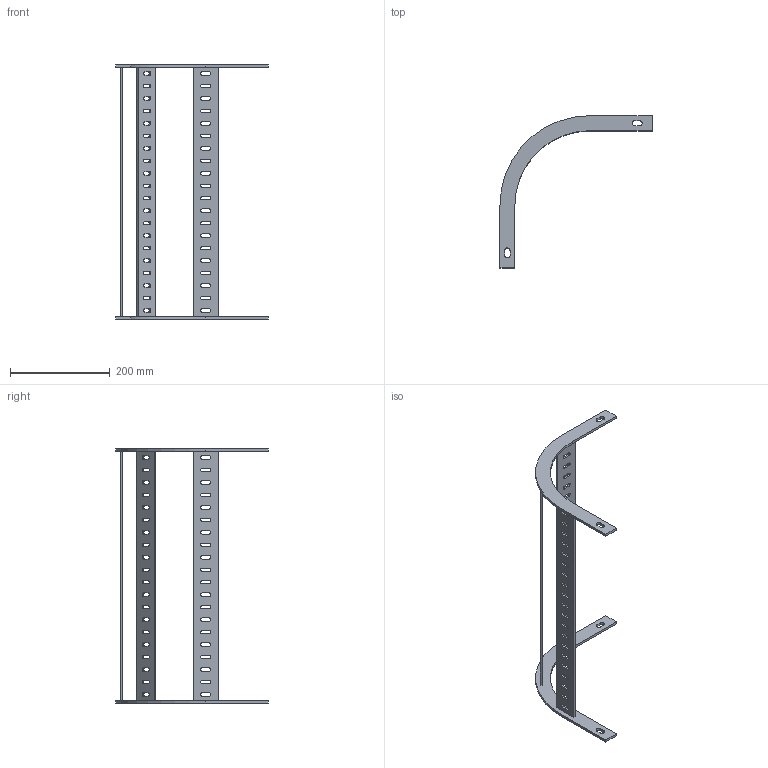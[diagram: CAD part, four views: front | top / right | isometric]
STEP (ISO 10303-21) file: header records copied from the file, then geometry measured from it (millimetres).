
FILE_DESCRIPTION(('Creo Elements/Direct Modeling STEP Export'),'2;1');
FILE_NAME('//pserver/office/EK/ME10-3D/3D-output/SLS 500F.stp','2020-03-10T15:11:29',(''),(''),'PTC Creo Elements/Direct Modeling STEP processor for AP214 (Solid Model)','PTC Creo Elements/Direct Modeling 19.0C 15-Aug-2015 (C) Parametric Technology GmbH','');
FILE_SCHEMA(('AUTOMOTIVE_DESIGN { 1 0 10303 214 1 1 1 1 }'));
Length unit declared in the file: millimetre
Products named in the file (1): SLS_500F
Bounding box: 305 x 305 x 510 mm (x, y, z)
Volume: 417797.5 mm3; surface area: 228164 mm2
Topology: 1 solids, 1 shells, 288 faces, 852 edges, 568 vertices
Faces by surface type: plane 156, cylinder 132
Entity records: 9966 total; most frequent: CARTESIAN_POINT 1709, ORIENTED_EDGE 1704, DIRECTION 1694, EDGE_CURVE 852, VECTOR 588, LINE 588, VERTEX_POINT 568, AXIS2_PLACEMENT_3D 553
